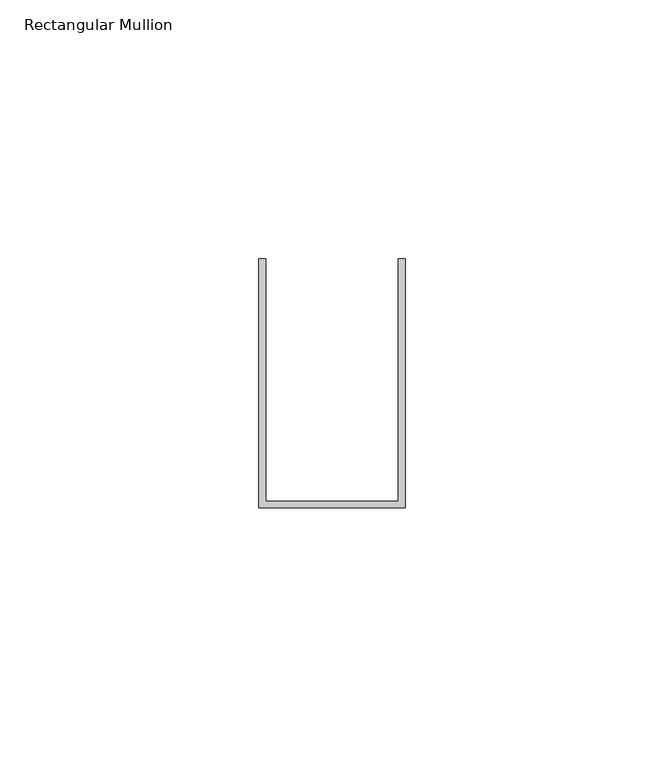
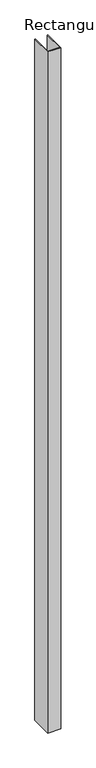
"""IFC4 building model written with IfcOpenShell, lengths in millimetres: member geometry, Rectangular Mullion : Danpal_NM_InetrnalV-Mullion."""

from ifc_helpers import new_model, si_unit, frame, origin, place, context, project, spatial, polyline, outline, extrude, source, transform, mapped, element, save


def rectangular_mullion_8ffd4793(model_context):
    return source(origin(), model_context, "Body", "SweptSolid", [
        extrude(outline(polyline([(12.3125928, -60.8367315), (12.3125928, -14.0044958), (13.6380334, -14.0044958), (13.6380334, -62.1621721), (-14.6380334, -62.1621721), (-14.6380334, -14.0043036), (-13.3125928, -14.0043433), (-13.3125928, -60.8367315), (12.3125928, -60.8367315)])), frame((0.0, 0.0, -1564.2328296), z_axis=(0.0, 0.0, 1.0), x_axis=(1.0, 0.0, 0.0)), (0.0, 0.0, 1.0), 1564.2328296),
    ])


if __name__ == "__main__":
    model = new_model("IFC4")
    model_context = context("Model", 3, world=origin())
    ifc_project = project(units=[si_unit("LENGTHUNIT", "METRE", prefix="MILLI")], contexts=[model_context])
    site = spatial("IfcSite", under=ifc_project)
    building = spatial("IfcBuilding", under=site)
    placement = place(None, origin())
    rectangular_mullion_shape = rectangular_mullion_8ffd4793(model_context)
    element("IfcMember", 1, ObjectType="Rectangular Mullion : Danpal_NM_InetrnalV-Mullion", at=placement, inside=building, context=model_context, shape_type="MappedRepresentation", body=[
        mapped(rectangular_mullion_shape, transform((0.0, 0.0, 0.0), x_axis=(1.0, 0.0, 0.0), y_axis=(0.0, 1.0, 0.0), z_axis=(0.0, 0.0, 1.0))),
    ])
    save(model, "model.ifc")
